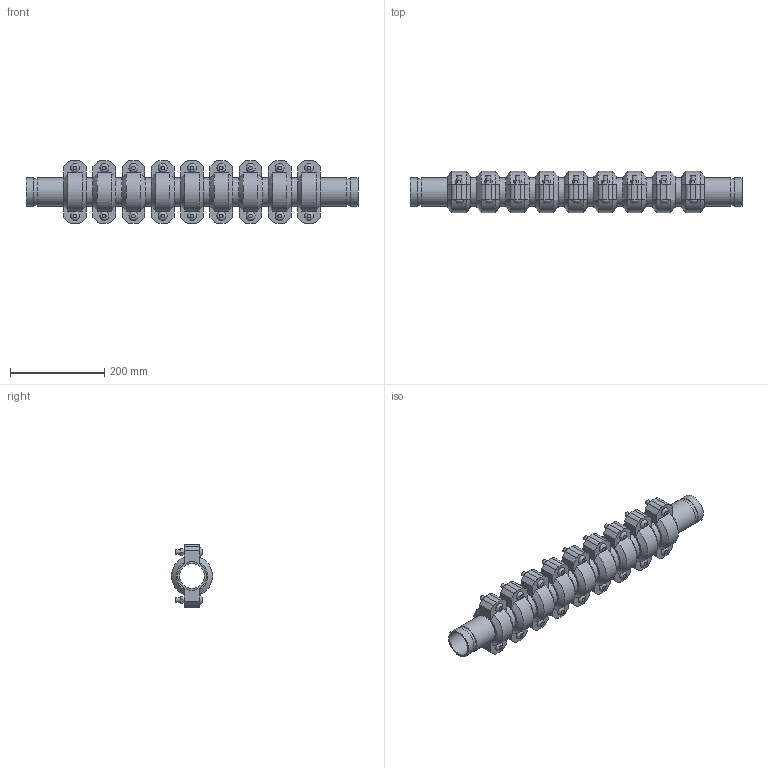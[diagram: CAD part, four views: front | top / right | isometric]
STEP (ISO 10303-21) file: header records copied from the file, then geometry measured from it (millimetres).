
FILE_DESCRIPTION(/* description */ ('VIC EXPANSION JOINT 9 COUPLINGS EXPANDED STYLE 155 (OGS)','CAx-IF Rec.Pracs.---Representation and Presentation of Product Manufacturing Information (PMI)---4.0---2014-10-13'),/* implementation_level */ '2;1');
FILE_NAME(/* name */ 'C:\Users\kkamble\AppData\Roaming\Autodesk\ApplicationPlugins\Victaulic.Temp\A90\Victaulic_IPS_Expansion Joint_Expanded_9 Couplings_Style 155 (OGS)_2 (50).stp',/* time_stamp */ '2021-06-27T00:11:04+02:00',/* author */ ('kkamble'),/* organization */ ('Victaulic'),/* preprocessor_version */ 'ST-DEVELOPER v17.2',/* originating_system */ 'Autodesk Inventor 2019',/* authorisation */ '');
FILE_SCHEMA (('AP242_MANAGED_MODEL_BASED_3D_ENGINEERING_MIM_LF { 1 0 10303 442 1 1 4 }'));
Length unit declared in the file: inch
Products named in the file (4): 155-02.0; Nipple-02.0; Nipple-02.0_1; 075-02.0
Assembly tree (19 placements, depth 2):
  155-02.0
    Nipple-02.0  x2
    Nipple-02.0_1  x8
    075-02.0  x9
Bounding box: 703.33 x 87.12 x 132.59 mm (x, y, z)
Volume: 2239202.7 mm3; surface area: 626930.2 mm2
Topology: 19 solids, 37 shells, 633 faces, 1497 edges, 1050 vertices
Faces by surface type: plane 384, cylinder 195, cone 36, bspline 18
Full cylindrical faces by diameter (mm): 9.525 x36, 11.43 x18, 52.502 x10, 53.975 x9, 57.15 x20, 60.325 x48
Entity records: 2865 total; most frequent: CARTESIAN_POINT 503, DIRECTION 481, ORIENTED_EDGE 386, AXIS2_PLACEMENT_3D 194, EDGE_CURVE 193, VERTEX_POINT 138, EDGE_LOOP 107, LINE 93
